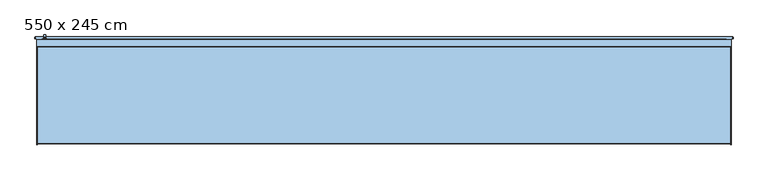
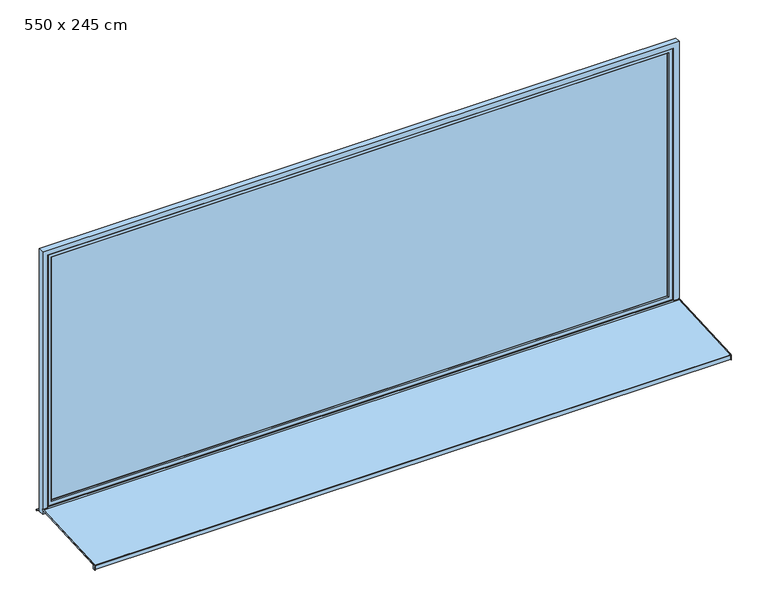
"""IFC4 building model written with IfcOpenShell, lengths in millimetres: window geometry, Fenêtre type 1 : 550 x 245 cm."""

from ifc_helpers import new_model, si_unit, frame, origin, place, context, project, spatial, polyline, circle_curve, outline, extrude, faceted_brep, source, transform, mapped, element, save
from ifc_brep_helpers import plane_surface, cylinder_surface, revolved_surface, advanced_brep


def window_550_x_245_cm_1fba9d42(model_context):
    return source(origin(), model_context, "Body", "SolidModel", [
        faceted_brep([(-2695.5, 403.0, 1306.0), (-2695.5, 403.0, 1294.0), (-2679.5, 403.0, 1294.0), (-2679.5, 403.0, 1306.0), (-2679.5, 415.4852814, 1306.0), (-2695.5, 415.4852814, 1306.0), (-2679.5, 410.5147186, 1294.0), (-2679.5, 417.0, 1287.5147186), (-2679.5, 417.0, 1287.2282668), (-2679.5, 419.7580139, 1208.5355339), (-2679.5, 429.0, 1208.5355339), (-2679.5, 429.0, 1292.4852814), (-2695.5, 410.5147186, 1294.0), (-2695.5, 429.0, 1292.4852814), (-2695.5, 429.0, 1208.5355339), (-2695.5, 419.7580139, 1208.5355339), (-2695.5, 417.0099909, 1287.2286157), (-2695.5, 417.0, 1287.5147186), (-2683.0355339, 429.0, 1205.0), (-2683.0355339, 419.8814775, 1205.0), (-2691.9644661, 419.8814775, 1205.0), (-2691.9644661, 429.0, 1205.0)], [[[0, 1, 2, 3]], [[3, 4, 5, 0]], [[2, 6, 7, 8, 9, 10, 11, 4, 3]], [[1, 12, 6, 2]], [[0, 5, 13, 14, 15, 16, 17, 12, 1]], [[4, 11, 13, 5]], [[6, 12, 17, 7]], [[18, 19, 20, 21]], [[11, 10, 18, 21, 14, 13]], [[17, 16, 8, 7]], [[16, 15, 20, 19, 9, 8]], [[9, 19, 18, 10]], [[14, 21, 20, 15]]]),
        extrude(outline(polyline([(1330.0, -2694.5), (1325.0, -2699.5), (1275.0, -2699.5), (1270.0, -2694.5), (1270.0, -2680.5), (1275.0, -2675.5), (1325.0, -2675.5), (1330.0, -2680.5), (1330.0, -2694.5)])), frame((0.0, 395.0, 0.0), z_axis=(0.0, 1.0, 0.0), x_axis=(0.0, 0.0, 1.0)), (0.0, 0.0, 1.0), 8.0),
        advanced_brep(
        [(-2750.0, -415.0, 762.0), (-2750.0, -441.5, 762.0), (-2750.0, -441.5, 795.1063906), (-2750.0, -427.2850393, 810.0858337), (-2750.0, 340.0, 850.2975386), (-2750.0, 340.0, 838.7817567), (-2750.0, -415.0, 799.2138833), (2750.0, -415.0, 799.2138833), (2750.0, 340.0, 838.7817567), (2750.0, 340.0, 850.2975386), (2750.0, -427.2850393, 810.0858337), (2750.0, -441.5, 795.1063906), (2750.0, -441.5, 762.0), (2750.0, -415.0, 762.0), (-2748.0, 340.0, 850.2975386), (-2748.0, 340.0, 840.2838152), (2748.0, 340.0, 840.2838152), (2748.0, 340.0, 850.2975386), (-2748.0, -426.7616798, 800.0995383), (2748.0, -426.7616798, 800.0995383), (2748.0, -431.5, 795.1063906), (-2748.0, -431.5, 795.1063906), (-2748.0, -431.5, 762.0), (2748.0, -431.5, 762.0), (-2748.0, -430.0, 762.0), (2748.0, -430.0, 762.0), (2748.0, -415.0, 762.0), (2748.0, -441.5, 762.0), (-2748.0, -441.5, 762.0), (-2748.0, -415.0, 762.0), (-2748.0, -420.0, 772.0), (2748.0, -420.0, 772.0), (-2748.0, -421.0606602, 773.0606602), (2748.0, -421.0606602, 773.0606602), (-2748.0, -430.0, 764.1213203), (2748.0, -430.0, 764.1213203), (-2748.0, -430.0, 795.0728058), (2748.0, -430.0, 795.0728058), (-2748.0, -415.0, 799.2138833), (2748.0, -415.0, 799.2138833), (2748.0, -426.649637, 798.6033517), (-2748.0, -426.649637, 798.6033517), (2748.0, -441.5, 795.1063906), (2748.0, -427.2850393, 810.0858337), (-2748.0, -427.2850393, 810.0858337), (-2748.0, -441.5, 795.1063906)],
        [
            (0, 1),
            (1, 2),
            (2, 3, circle_curve(frame((-2750.0, -426.5, 795.1063906), z_axis=(-1.0, 0.0, 0.0), x_axis=(0.0, -0.052335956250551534, 0.9986295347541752)), 15.0)),
            (3, 4),
            (4, 5),
            (5, 6),
            (6, 0),
            (7, 8),
            (8, 9),
            (9, 10),
            (10, 11, circle_curve(frame((2750.0, -426.5, 795.1063906), z_axis=(1.0, 0.0, 0.0), x_axis=(0.0, -1.0, 0.0)), 15.0)),
            (11, 12),
            (12, 13),
            (13, 7),
            (14, 15),
            (15, 16),
            (16, 17),
            (17, 9),
            (8, 5),
            (4, 14),
            (18, 19),
            (19, 16),
            (15, 18),
            (20, 21),
            (21, 22),
            (22, 23),
            (23, 20),
            (24, 25),
            (25, 26),
            (26, 13),
            (12, 27),
            (27, 23),
            (22, 28),
            (28, 1),
            (0, 29),
            (29, 24),
            (30, 31),
            (31, 25),
            (24, 30),
            (32, 33),
            (33, 31),
            (30, 32),
            (34, 35),
            (35, 33),
            (32, 34),
            (36, 37),
            (37, 35),
            (34, 36),
            (38, 6),
            (7, 39),
            (39, 40),
            (40, 41),
            (41, 38),
            (41, 36, circle_curve(frame((-2748.0, -426.4646089, 795.0728058), z_axis=(1.0, 0.0, 0.0), x_axis=(0.0, 1.0, 0.0)), 3.5353911)),
            (29, 38),
            (37, 40, circle_curve(frame((2748.0, -426.4646089, 795.0728058), z_axis=(-1.0, 0.0, 0.0), x_axis=(0.0, 1.0, 0.0)), 3.5353911)),
            (39, 26),
            (18, 21, circle_curve(frame((-2748.0, -426.5, 795.1063906), z_axis=(1.0, 0.0, 0.0), x_axis=(0.0, 1.0, 0.0)), 5.0)),
            (20, 19, circle_curve(frame((2748.0, -426.5, 795.1063906), z_axis=(-1.0, 0.0, 0.0), x_axis=(0.0, 1.0, 0.0)), 5.0)),
            (27, 42),
            (42, 43, circle_curve(frame((2748.0, -426.5, 795.1063906), z_axis=(-1.0, 0.0, 0.0), x_axis=(0.0, -1.0, 0.0)), 15.0)),
            (43, 17),
            (11, 42),
            (10, 43),
            (14, 44),
            (44, 45, circle_curve(frame((-2748.0, -426.5, 795.1063906), z_axis=(1.0, 0.0, 0.0), x_axis=(0.0, -0.052335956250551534, 0.9986295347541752)), 15.0)),
            (45, 28),
            (3, 44),
            (2, 45),
        ],
        [
            plane_surface(frame((-2750.0, 340.0, 838.7817567), z_axis=(-1.0, 0.0, 0.0), x_axis=(0.0, 0.0, 1.0))),
            plane_surface(frame((2750.0, 340.0, 838.7817567), z_axis=(1.0, 0.0, 0.0), x_axis=(0.0, 0.0, -1.0))),
            plane_surface(frame((-2750.0, 340.0, 838.7817567), z_axis=(0.0, 1.0, 0.0), x_axis=(1.0, 0.0, 0.0))),
            plane_surface(frame((-2750.0, 340.0, 840.2838152), z_axis=(0.0, -0.05233595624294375, 0.9986295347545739), x_axis=(1.0, 0.0, 0.0))),
            plane_surface(frame((-2750.0, -431.5, 795.1063906), z_axis=(0.0, -1.0, 0.0), x_axis=(1.0, 0.0, 0.0))),
            plane_surface(frame((-2750.0, -431.5, 762.0), z_axis=(0.0, 0.0, -1.0), x_axis=(1.0, 0.0, 0.0))),
            plane_surface(frame((-2750.0, -430.0, 762.0), z_axis=(0.0, 0.707106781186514, -0.7071067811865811), x_axis=(1.0, 0.0, 0.0))),
            plane_surface(frame((-2750.0, -420.0, 772.0), z_axis=(0.0, 0.7071067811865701, 0.707106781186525), x_axis=(1.0, 0.0, 0.0))),
            plane_surface(frame((-2750.0, -421.0606602, 773.0606602), z_axis=(0.0, -0.7071067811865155, 0.7071067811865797), x_axis=(1.0, 0.0, 0.0))),
            plane_surface(frame((-2750.0, -430.0, 764.1213203), z_axis=(0.0, 1.0, 0.0), x_axis=(1.0, 0.0, 0.0))),
            plane_surface(frame((-2750.0, -426.649637, 798.6033517), z_axis=(0.0, 0.052335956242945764, -0.9986295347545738), x_axis=(1.0, 0.0, 0.0))),
            plane_surface(frame((-2748.0, -430.0, 798.4277666), z_axis=(1.0, 0.0, 0.0), x_axis=(0.0, 0.9986295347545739, 0.052335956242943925))),
            plane_surface(frame((-2750.0, -415.0, 762.0), z_axis=(0.0, 1.0, 0.0), x_axis=(1.0, 0.0, 0.0))),
            plane_surface(frame((2748.0, -430.0, 798.4277666), z_axis=(-1.0, 0.0, 0.0), x_axis=(0.0, 0.0, -1.0))),
            plane_surface(frame((2748.0, -415.0, 762.0), z_axis=(0.0, 1.0, 0.0), x_axis=(1.0, 0.0, 0.0))),
            cylinder_surface(frame((2750.0, -426.5, 795.1063906), z_axis=(-1.0, 0.0, 0.0), x_axis=(0.0, 1.0, 0.0)), 5.0),
            revolved_surface(polyline([(2748.0, -422.92921779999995, 795.0728058), (-2748.0, -422.92921779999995, 795.0728058)]), (2750.0, -426.4646089, 795.0728058), (1.0, 0.0, 0.0)),
            plane_surface(frame((2748.0, -431.5, 762.0), z_axis=(-1.0, 0.0, 0.0), x_axis=(0.0, 0.0, 1.0))),
            plane_surface(frame((2748.0, -441.5, 762.0), z_axis=(0.0, -1.0, 0.0), x_axis=(0.0, 0.0, 1.0))),
            cylinder_surface(frame((2750.0, -426.5, 795.1063906), z_axis=(1.0, 0.0, 0.0), x_axis=(0.0, -1.0, 0.0)), 15.0),
            plane_surface(frame((2748.0, -427.2850393, 810.0858337), z_axis=(0.0, -0.052335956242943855, 0.9986295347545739), x_axis=(0.0, 0.9986295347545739, 0.052335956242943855))),
            plane_surface(frame((-2748.0, 340.0, 850.2975386), z_axis=(1.0, 0.0, 0.0), x_axis=(0.0, 0.9986295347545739, 0.05233595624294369))),
            plane_surface(frame((-2750.0, 340.0, 850.2975386), z_axis=(0.0, -0.05233595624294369, 0.9986295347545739), x_axis=(1.0, 0.0, 0.0))),
            cylinder_surface(frame((-2750.0, -426.5, 795.1063906), z_axis=(-1.0, 0.0, 0.0), x_axis=(0.0, -0.052335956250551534, 0.9986295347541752)), 15.0),
            plane_surface(frame((-2748.0, -441.5, 795.1063906), z_axis=(0.0, -1.0, 0.0), x_axis=(0.0, 0.0, -1.0))),
        ],
        [
            (0, [[1, 2, 3, 4, 5, 6, 7]]),
            (1, [[8, 9, 10, 11, 12, 13, 14]]),
            (2, [[15, 16, 17, 18, -9, 19, -5, 20]]),
            (3, [[21, 22, -16, 23]]),
            (4, [[24, 25, 26, 27]]),
            (5, [[28, 29, 30, -13, 31, 32, -26, 33, 34, -1, 35, 36]]),
            (6, [[37, 38, -28, 39]]),
            (7, [[40, 41, -37, 42]]),
            (8, [[43, 44, -40, 45]]),
            (9, [[46, 47, -43, 48]]),
            (10, [[49, -6, -19, -8, 50, 51, 52, 53]]),
            (11, [[-53, 54, -48, -45, -42, -39, -36, 55]]),
            (12, [[-35, -7, -49, -55]]),
            (13, [[-38, -41, -44, -47, 56, -51, 57, -29]]),
            (14, [[-50, -14, -30, -57]]),
            (15, [[-21, 58, -24, 59]]),
            (16, [[-52, -56, -46, -54]]),
            (17, [[60, 61, 62, -17, -22, -59, -27, -32]]),
            (18, [[-12, 63, -60, -31]]),
            (19, [[64, -61, -63, -11]]),
            (20, [[-10, -18, -62, -64]]),
            (21, [[65, 66, 67, -33, -25, -58, -23, -15]]),
            (22, [[68, -65, -20, -4]]),
            (23, [[69, -66, -68, -3]]),
            (24, [[-34, -67, -69, -2]]),
        ],
    ),
        extrude(outline(polyline([(-2660.0, 385.0), (2660.0, 385.0), (2660.0, 365.0), (-2660.0, 365.0), (-2660.0, 385.0)])), frame((0.0, 0.0, 890.0), z_axis=(0.0, 0.0, 1.0), x_axis=(1.0, 0.0, 0.0)), (0.0, 0.0, 1.0), 2220.0),
        faceted_brep([(-2710.0, 395.0, 840.0), (2710.0, 395.0, 840.0), (2710.0, 355.0, 840.0), (-2710.0, 355.0, 840.0), (2710.0, 395.0, 3160.0), (2710.0, 355.0, 3160.0), (-2710.0, 355.0, 3160.0), (2667.0710678, 355.0, 3117.0710678), (2667.0710678, 355.0, 882.9289322), (-2667.0710678, 355.0, 882.9289322), (-2667.0710678, 355.0, 3117.0710678), (-2710.0, 395.0, 3160.0), (2667.0710678, 395.0, 882.9289322), (2667.0710678, 395.0, 3117.0710678), (-2667.0710678, 395.0, 3117.0710678), (-2667.0710678, 395.0, 882.9289322), (-2660.0, 387.9289322, 890.0), (2660.0, 387.9289322, 890.0), (2660.0, 387.9289322, 3110.0), (2660.0, 362.0710678, 890.0), (2660.0, 362.0710678, 3110.0), (-2660.0, 362.0710678, 890.0), (-2660.0, 387.9289322, 3110.0), (-2660.0, 362.0710678, 3110.0)], [[[0, 1, 2, 3]], [[1, 4, 5, 2]], [[2, 5, 6, 3], [7, 8, 9, 10]], [[4, 1, 0, 11], [12, 13, 14, 15]], [[16, 17, 12, 15]], [[17, 18, 13, 12]], [[19, 20, 18, 17]], [[9, 8, 19, 21]], [[8, 7, 20, 19]], [[11, 0, 3, 6]], [[22, 16, 15, 14]], [[23, 21, 16, 22]], [[10, 9, 21, 23]], [[21, 19, 17, 16]], [[4, 11, 6, 5]], [[18, 22, 14, 13]], [[7, 10, 23, 20]], [[20, 23, 22, 18]]]),
        faceted_brep([(2750.0, 340.0, 800.0), (2750.0, 390.0, 800.0), (2750.0, 390.0, 3200.0), (2750.0, 340.0, 3200.0), (2750.0, 340.0, 845.0), (2750.0, 330.0, 835.0), (2750.0, 330.0, 830.0), (2750.0, 340.0, 830.0), (-2750.0, 340.0, 830.0), (-2750.0, 340.0, 800.0), (-2750.0, 330.0, 830.0), (-2750.0, 330.0, 835.0), (2705.0, 340.0, 845.0), (2700.0, 345.0, 850.0), (-2700.0, 345.0, 850.0), (-2705.0, 340.0, 845.0), (-2750.0, 340.0, 845.0), (-2750.0, 340.0, 3200.0), (-2705.0, 340.0, 3155.0), (2705.0, 340.0, 3155.0), (-2750.0, 390.0, 800.0), (-2750.0, 390.0, 3200.0), (2710.0, 390.0, 840.0), (2710.0, 390.0, 3160.0), (-2710.0, 390.0, 3160.0), (-2710.0, 390.0, 840.0), (-2710.0, 355.0, 840.0), (2710.0, 355.0, 840.0), (-2710.0, 355.0, 3160.0), (2710.0, 355.0, 3160.0), (2700.0, 355.0, 850.0), (2700.0, 355.0, 3150.0), (-2700.0, 355.0, 3150.0), (-2700.0, 355.0, 850.0), (-2700.0, 345.0, 3150.0), (2700.0, 345.0, 3150.0)], [[[0, 1, 2, 3, 4, 5, 6, 7]], [[7, 8, 9, 0]], [[6, 10, 8, 7]], [[5, 11, 10, 6]], [[5, 4, 12, 13, 14, 15, 16, 11]], [[17, 16, 15, 18, 19, 12, 4, 3]], [[1, 20, 21, 2], [22, 23, 24, 25]], [[0, 9, 20, 1]], [[9, 8, 10, 11, 16, 17, 21, 20]], [[25, 26, 27, 22]], [[26, 25, 24, 28]], [[22, 27, 29, 23]], [[29, 27, 26, 28], [30, 31, 32, 33]], [[33, 14, 13, 30]], [[34, 14, 33, 32]], [[31, 30, 13, 35]], [[35, 13, 12, 19]], [[18, 15, 14, 34]], [[3, 2, 21, 17]], [[28, 24, 23, 29]], [[31, 35, 34, 32]], [[18, 34, 35, 19]]]),
        advanced_brep(
        [(2750.0, 400.0, 805.0), (2763.9971508, 400.0, 805.0), (2763.9971508, 410.0, 805.0), (2760.0, 413.9971508, 805.0), (-2760.0, 413.9971508, 805.0), (-2763.9971508, 410.0, 805.0), (-2763.9971508, 400.0, 805.0), (-2750.0, 400.0, 805.0), (-2750.0, 390.0, 805.0), (2750.0, 390.0, 805.0), (-2750.0, 400.0, 800.0), (-2763.9971508, 400.0, 800.0), (-2763.9971508, 410.0, 800.0), (-2760.0, 413.9971508, 800.0), (2760.0, 413.9971508, 800.0), (2763.9971508, 410.0, 800.0), (2763.9971508, 400.0, 800.0), (2750.0, 400.0, 800.0), (2750.0, 390.0, 800.0), (-2750.0, 390.0, 800.0), (-2765.0, 410.0, 801.0028492), (-2765.0, 400.0, 801.0028492), (-2765.0, 400.0, 803.9971508), (-2765.0, 410.0, 803.9971508), (2765.0, 400.0, 801.0028492), (2765.0, 400.0, 803.9971508), (2765.0, 410.0, 801.0028492), (2765.0, 410.0, 803.9971508), (2760.0, 415.0, 801.0028492), (-2760.0, 415.0, 801.0028492), (-2760.0, 415.0, 803.9971508), (2760.0, 415.0, 803.9971508)],
        [
            (0, 1),
            (1, 2),
            (2, 3, circle_curve(frame((2760.0, 410.0, 805.0), z_axis=(0.0, 0.0, 1.0), x_axis=(0.0, 1.0, 0.0)), 3.9971508)),
            (3, 4),
            (4, 5, circle_curve(frame((-2760.0, 410.0, 805.0), z_axis=(0.0, 0.0, 1.0), x_axis=(-1.0, 0.0, 0.0)), 3.9971508)),
            (5, 6),
            (6, 7),
            (7, 8),
            (8, 9),
            (9, 0),
            (10, 11),
            (11, 12),
            (12, 13, circle_curve(frame((-2760.0, 410.0, 800.0), z_axis=(0.0, 0.0, -1.0), x_axis=(-1.0, 0.0, 0.0)), 3.9971508)),
            (13, 14),
            (14, 15, circle_curve(frame((2760.0, 410.0, 800.0), z_axis=(0.0, 0.0, -1.0), x_axis=(0.0, 1.0, 0.0)), 3.9971508)),
            (15, 16),
            (16, 17),
            (17, 18),
            (18, 19),
            (19, 10),
            (20, 21),
            (21, 22),
            (22, 23),
            (23, 20),
            (6, 22),
            (21, 11),
            (10, 7),
            (19, 8),
            (18, 9),
            (17, 0),
            (16, 24),
            (24, 25),
            (25, 1),
            (24, 26),
            (26, 27),
            (27, 25),
            (28, 29),
            (29, 30),
            (30, 31),
            (31, 28),
            (31, 27, circle_curve(frame((2760.0, 410.0, 803.9971508), z_axis=(0.0, 0.0, -1.0), x_axis=(0.0, 1.0, 0.0)), 5.0)),
            (26, 28, circle_curve(frame((2760.0, 410.0, 801.0028492), z_axis=(0.0, 0.0, 1.0), x_axis=(0.0, 1.0, 0.0)), 5.0)),
            (23, 30, circle_curve(frame((-2760.0, 410.0, 803.9971508), z_axis=(0.0, 0.0, -1.0), x_axis=(0.0, 1.0, 0.0)), 5.0)),
            (29, 20, circle_curve(frame((-2760.0, 410.0, 801.0028492), z_axis=(0.0, 0.0, 1.0), x_axis=(0.0, 1.0, 0.0)), 5.0)),
            (5, 23),
            (20, 12),
            (4, 30),
            (29, 13),
            (3, 31),
            (28, 14),
            (2, 27),
            (26, 15),
        ],
        [
            plane_surface(frame((-2765.0, 400.0, 805.0), z_axis=(0.0, 0.0, 1.0), x_axis=(0.0, 1.0, 0.0))),
            plane_surface(frame((-2765.0, 400.0, 800.0), z_axis=(0.0, 0.0, -1.0), x_axis=(0.0, -1.0, 0.0))),
            plane_surface(frame((-2765.0, 410.0, 800.0), z_axis=(-1.0, 0.0, 0.0), x_axis=(0.0, 0.0, 1.0))),
            plane_surface(frame((-2765.0, 400.0, 800.0), z_axis=(0.0, -1.0, 0.0), x_axis=(0.0, 0.0, 1.0))),
            plane_surface(frame((-2750.0, 400.0, 800.0), z_axis=(-1.0, 0.0, 0.0), x_axis=(0.0, 0.0, 1.0))),
            plane_surface(frame((-2750.0, 390.0, 800.0), z_axis=(0.0, -1.0, 0.0), x_axis=(0.0, 0.0, 1.0))),
            plane_surface(frame((2750.0, 390.0, 800.0), z_axis=(1.0, 0.0, 0.0), x_axis=(0.0, 0.0, 1.0))),
            plane_surface(frame((2750.0, 400.0, 800.0), z_axis=(0.0, -1.0, 0.0), x_axis=(0.0, 0.0, 1.0))),
            plane_surface(frame((2765.0, 400.0, 800.0), z_axis=(1.0, 0.0, 0.0), x_axis=(0.0, 0.0, 1.0))),
            plane_surface(frame((2760.0, 415.0, 800.0), z_axis=(0.0, 1.0, 0.0), x_axis=(0.0, 0.0, 1.0))),
            cylinder_surface(frame((2760.0, 410.0, 805.0), z_axis=(0.0, 0.0, -1.0), x_axis=(0.0, 1.0, 0.0)), 5.0),
            cylinder_surface(frame((-2760.0, 410.0, 805.0), z_axis=(0.0, 0.0, -1.0), x_axis=(0.0, 1.0, 0.0)), 5.0),
            plane_surface(frame((-2763.9971508, 400.0, 805.0), z_axis=(-0.7071067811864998, 0.0, 0.7071067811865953), x_axis=(0.0, 1.0, 0.0))),
            plane_surface(frame((-2765.0, 400.0, 801.0028492), z_axis=(-0.7071067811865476, 0.0, -0.7071067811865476), x_axis=(0.0, 1.0, 0.0))),
            revolved_surface(polyline([(-2765.0, 410.0, 803.9971508), (-2763.9971508, 410.0, 805.0)]), (-2760.0, 410.0, 805.0), (0.0, 0.0, 1.0)),
            revolved_surface(polyline([(-2763.9971508, 410.0, 800.0), (-2765.0, 410.0, 801.0028492)]), (-2760.0, 410.0, 805.0), (0.0, 0.0, 1.0)),
            plane_surface(frame((-2760.0, 413.9971508, 805.0), z_axis=(0.0, 0.7071067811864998, 0.7071067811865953), x_axis=(1.0, 0.0, 0.0))),
            plane_surface(frame((-2760.0, 415.0, 801.0028492), z_axis=(0.0, 0.7071067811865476, -0.7071067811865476), x_axis=(1.0, 0.0, 0.0))),
            revolved_surface(polyline([(2760.0, 415.0, 803.9971508), (2760.0, 413.9971508, 805.0)]), (2760.0, 410.0, 805.0), (0.0, 0.0, 1.0)),
            revolved_surface(polyline([(2760.0, 413.9971508, 800.0), (2760.0, 415.0, 801.0028492)]), (2760.0, 410.0, 805.0), (0.0, 0.0, 1.0)),
            plane_surface(frame((2763.9971508, 410.0, 805.0), z_axis=(0.7071067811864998, 0.0, 0.7071067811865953), x_axis=(0.0, -1.0, 0.0))),
            plane_surface(frame((2765.0, 410.0, 801.0028492), z_axis=(0.7071067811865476, 0.0, -0.7071067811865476), x_axis=(0.0, -1.0, 0.0))),
        ],
        [
            (0, [[1, 2, 3, 4, 5, 6, 7, 8, 9, 10]]),
            (1, [[11, 12, 13, 14, 15, 16, 17, 18, 19, 20]]),
            (2, [[21, 22, 23, 24]]),
            (3, [[-7, 25, -22, 26, -11, 27]]),
            (4, [[-27, -20, 28, -8]]),
            (5, [[-28, -19, 29, -9]]),
            (6, [[-29, -18, 30, -10]]),
            (7, [[-17, 31, 32, 33, -1, -30]]),
            (8, [[34, 35, 36, -32]]),
            (9, [[37, 38, 39, 40]]),
            (10, [[41, -35, 42, -40]]),
            (11, [[43, -38, 44, -24]]),
            (12, [[-23, -25, -6, 45]]),
            (13, [[-12, -26, -21, 46]]),
            (14, [[-5, 47, -43, -45]]),
            (15, [[-44, 48, -13, -46]]),
            (16, [[-4, 49, -39, -47]]),
            (17, [[-37, 50, -14, -48]]),
            (18, [[-3, 51, -41, -49]]),
            (19, [[-42, 52, -15, -50]]),
            (20, [[-2, -33, -36, -51]]),
            (21, [[-34, -31, -16, -52]]),
        ],
    ),
    ])


if __name__ == "__main__":
    model = new_model("IFC4")
    model_context = context("Model", 3, world=origin())
    ifc_project = project(units=[si_unit("LENGTHUNIT", "METRE", prefix="MILLI")], contexts=[model_context])
    site = spatial("IfcSite", under=ifc_project)
    building = spatial("IfcBuilding", under=site)
    placement = place(None, origin())
    window_550_x_245_cm_shape = window_550_x_245_cm_1fba9d42(model_context)
    element("IfcWindow", 1, ObjectType="Fenêtre type 1 : 550 x 245 cm", at=placement, inside=building, context=model_context, shape_type="MappedRepresentation", body=[
        mapped(window_550_x_245_cm_shape, transform((0.0, 0.0, 0.0), x_axis=(1.0, 0.0, 0.0), y_axis=(0.0, 1.0, 0.0), z_axis=(0.0, 0.0, 1.0))),
    ])
    save(model, "model.ifc")
